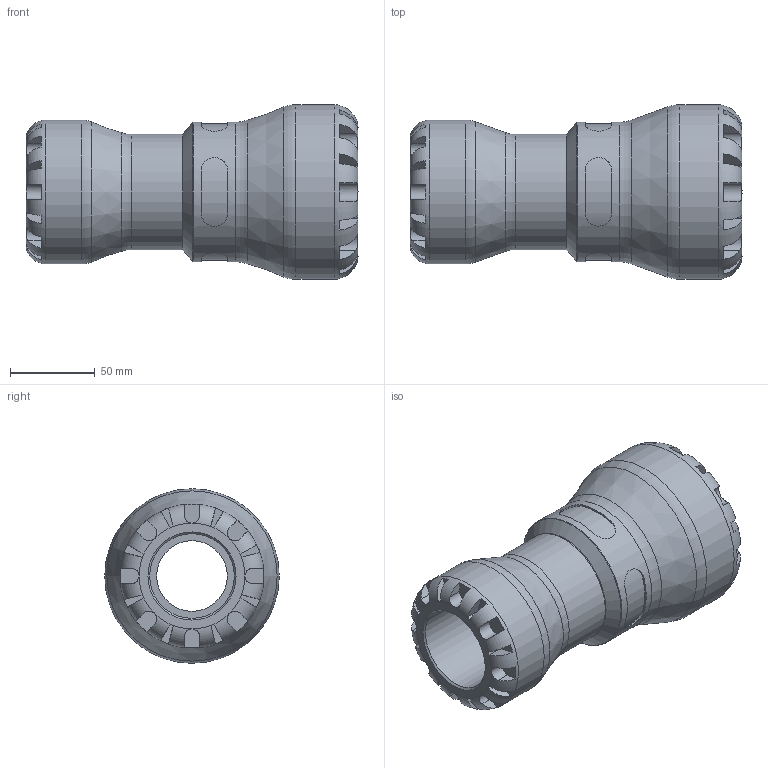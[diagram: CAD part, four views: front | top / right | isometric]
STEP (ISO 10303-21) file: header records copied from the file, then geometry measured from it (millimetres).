
FILE_DESCRIPTION(/* description */ ('PLASSON G-PLASS REDUCING COUPLING 63 x 50'),/* implementation_level */ '2;1');
FILE_NAME(/* name */ 'C:\Dropbox\KIMPROJECTS-Inventor 2019\99-16-3568-Processing\S1\151100\stp\151100063050.stp',/* time_stamp */ '2023-10-17T19:45:40+03:00',/* author */ ('KIM'),/* organization */ (''),/* preprocessor_version */ 'ST-DEVELOPER v17.2',/* originating_system */ 'Autodesk Inventor 2019',/* authorisation */ '');
FILE_SCHEMA (('AUTOMOTIVE_DESIGN { 1 0 10303 214 3 1 1 }'));
Length unit declared in the file: millimetre
Products named in the file (1): 151100063050
Bounding box: 196 x 103 x 103 mm (x, y, z)
Volume: 607423.8 mm3; surface area: 102067.4 mm2
Topology: 1 solids, 1 shells, 172 faces, 465 edges, 300 vertices
Faces by surface type: plane 108, cylinder 50, torus 8, cone 6
Full cylindrical faces by diameter (mm): 50 x1, 63 x1, 68 x1, 82.4 x1, 85 x1, 103 x1
Entity records: 6972 total; most frequent: CARTESIAN_POINT 2498, ORIENTED_EDGE 930, DIRECTION 895, EDGE_CURVE 465, AXIS2_PLACEMENT_3D 369, VERTEX_POINT 300, CIRCLE 196, EDGE_LOOP 179
